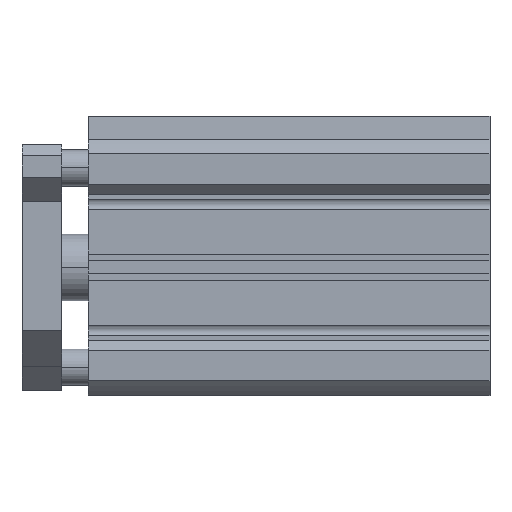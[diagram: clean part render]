
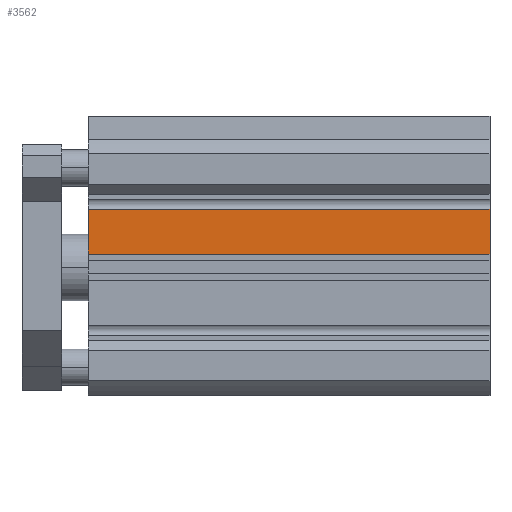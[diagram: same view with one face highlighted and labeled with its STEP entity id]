
A CAD part, top view. The second image highlights one B-rep face of the part: STEP entity #3562.
In plain terms, the highlighted planar face has unit normal (0, 0, 1).
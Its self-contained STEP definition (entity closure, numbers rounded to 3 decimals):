
#539 = VECTOR ( 'NONE', #2924, 1000. ) ;
#1057 = EDGE_LOOP ( 'NONE', ( #3589, #3894, #3642, #4886 ) ) ;
#1215 = VERTEX_POINT ( 'NONE', #1596 ) ;
#1260 = DIRECTION ( 'NONE',  ( -1., 0., 0. ) ) ;
#1406 = DIRECTION ( 'NONE',  ( 0., -1., 0. ) ) ;
#1435 = DIRECTION ( 'NONE',  ( 0., 0., -1. ) ) ;
#1596 = CARTESIAN_POINT ( 'NONE',  ( 0., 17.5, 35.5 ) ) ;
#1875 = PLANE ( 'NONE',  #4033 ) ;
#2070 = VERTEX_POINT ( 'NONE', #2923 ) ;
#2185 = CARTESIAN_POINT ( 'NONE',  ( 121., 17.5, 35.5 ) ) ;
#2235 = DIRECTION ( 'NONE',  ( 0., -1., 0. ) ) ;
#2786 = LINE ( 'NONE', #3772, #3961 ) ;
#2796 = CARTESIAN_POINT ( 'NONE',  ( 121., 17.5, 35.5 ) ) ;
#2830 = EDGE_CURVE ( 'NONE', #1215, #2070, #2786, .T. ) ;
#2893 = CARTESIAN_POINT ( 'NONE',  ( 121., 17.5, 35.5 ) ) ;
#2923 = CARTESIAN_POINT ( 'NONE',  ( 0., 4., 35.5 ) ) ;
#2924 = DIRECTION ( 'NONE',  ( 0., -1., 0. ) ) ;
#2985 = LINE ( 'NONE', #2893, #539 ) ;
#2998 = DIRECTION ( 'NONE',  ( -1., 0., 0. ) ) ;
#3115 = EDGE_CURVE ( 'NONE', #5723, #2070, #3576, .T. ) ;
#3410 = VERTEX_POINT ( 'NONE', #2185 ) ;
#3562 = ADVANCED_FACE ( 'NONE', ( #4660 ), #1875, .F. ) ;
#3576 = LINE ( 'NONE', #5466, #3621 ) ;
#3589 = ORIENTED_EDGE ( 'NONE', *, *, #2830, .T. ) ;
#3621 = VECTOR ( 'NONE', #2998, 1000. ) ;
#3642 = ORIENTED_EDGE ( 'NONE', *, *, #6098, .F. ) ;
#3735 = EDGE_CURVE ( 'NONE', #3410, #1215, #5921, .T. ) ;
#3772 = CARTESIAN_POINT ( 'NONE',  ( 0., 17.5, 35.5 ) ) ;
#3894 = ORIENTED_EDGE ( 'NONE', *, *, #3115, .F. ) ;
#3961 = VECTOR ( 'NONE', #2235, 1000. ) ;
#4033 = AXIS2_PLACEMENT_3D ( 'NONE', #2796, #1435, #1406 ) ;
#4607 = CARTESIAN_POINT ( 'NONE',  ( 121., 17.5, 35.5 ) ) ;
#4660 = FACE_OUTER_BOUND ( 'NONE', #1057, .T. ) ;
#4886 = ORIENTED_EDGE ( 'NONE', *, *, #3735, .T. ) ;
#5311 = VECTOR ( 'NONE', #1260, 1000. ) ;
#5466 = CARTESIAN_POINT ( 'NONE',  ( 121., 4., 35.5 ) ) ;
#5723 = VERTEX_POINT ( 'NONE', #6035 ) ;
#5921 = LINE ( 'NONE', #4607, #5311 ) ;
#6035 = CARTESIAN_POINT ( 'NONE',  ( 121., 4., 35.5 ) ) ;
#6098 = EDGE_CURVE ( 'NONE', #3410, #5723, #2985, .T. ) ;
